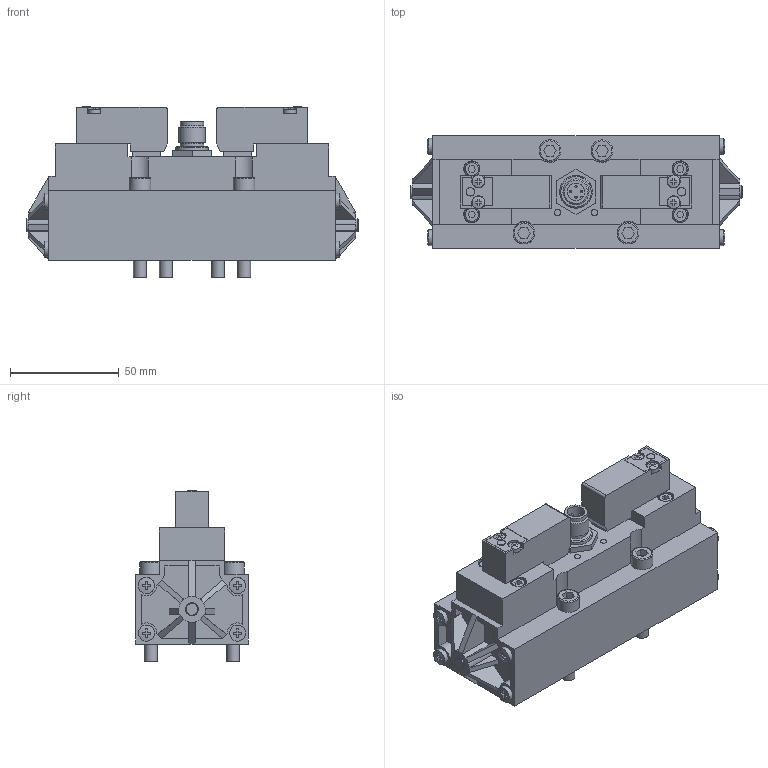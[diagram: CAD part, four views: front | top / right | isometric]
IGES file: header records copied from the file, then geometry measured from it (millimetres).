
Global section: file name: No Iges File Name specified; native system: Autodesk Inventor 2013; preprocessor: AutoDesk Inventor Iges Exporter R2013; author: valotma1; date: 20140318.135045; units: millimetre
Bounding box: 153 x 52 x 78.7 mm (x, y, z)
Volume: 314711.7 mm3; surface area: 50056.2 mm2
Topology: 5 solids, 5 shells, 563 faces, 1440 edges, 947 vertices
Faces by surface type: bspline 563
